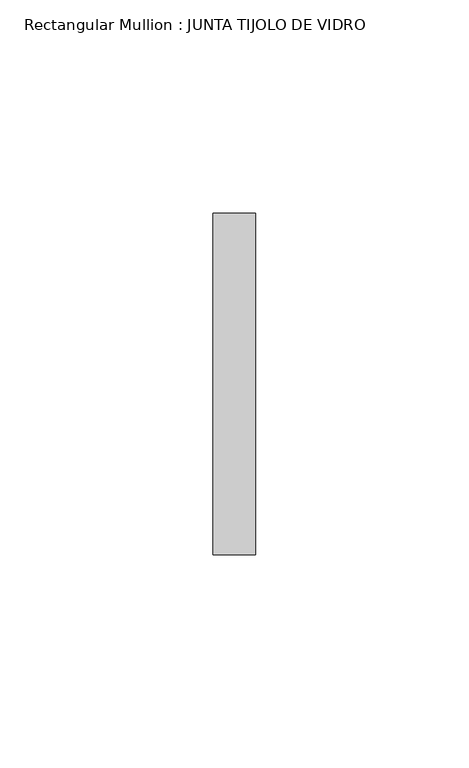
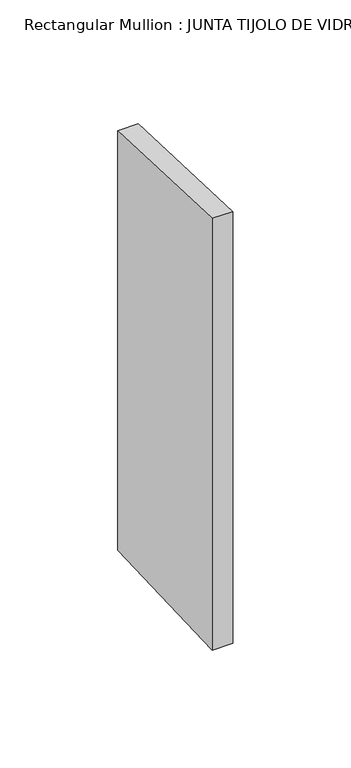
"""IFC4 building model written with IfcOpenShell, lengths in millimetres: member geometry, Rectangular Mullion : JUNTA TIJOLO DE VIDRO."""

from ifc_helpers import new_model, si_unit, frame, origin, place, context, project, spatial, polyline, outline, extrude, source, transform, mapped, element, save


def rectangular_mullion_junta_tijolo_de_vidro_a27529c7(model_context):
    return source(origin(), model_context, "Body", "SweptSolid", [
        extrude(outline(polyline([(-40.0, 1.5506987), (40.0, -1.5506987), (40.0, -218.7561819), (-40.0, -221.8575793), (-40.0, 1.5506987)])), frame((-10.0, 0.0, 0.0), z_axis=(1.0, 0.0, 0.0), x_axis=(0.0, 1.0, 0.0)), (0.0, 0.0, 1.0), 10.0),
    ])


if __name__ == "__main__":
    model = new_model("IFC4")
    model_context = context("Model", 3, world=origin())
    ifc_project = project(units=[si_unit("LENGTHUNIT", "METRE", prefix="MILLI")], contexts=[model_context])
    site = spatial("IfcSite", under=ifc_project)
    building = spatial("IfcBuilding", under=site)
    placement = place(None, origin())
    rectangular_mullion_junta_tijolo_de_vidro_shape = rectangular_mullion_junta_tijolo_de_vidro_a27529c7(model_context)
    element("IfcMember", 1, ObjectType="Rectangular Mullion : JUNTA TIJOLO DE VIDRO", at=placement, inside=building, context=model_context, shape_type="MappedRepresentation", body=[
        mapped(rectangular_mullion_junta_tijolo_de_vidro_shape, transform((0.0, 0.0, 0.0), x_axis=(1.0, 0.0, 0.0), y_axis=(0.0, 1.0, 0.0), z_axis=(0.0, 0.0, 1.0))),
    ])
    save(model, "model.ifc")
